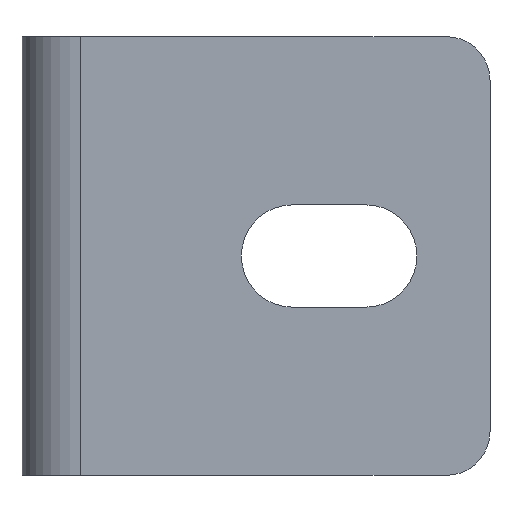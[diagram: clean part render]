
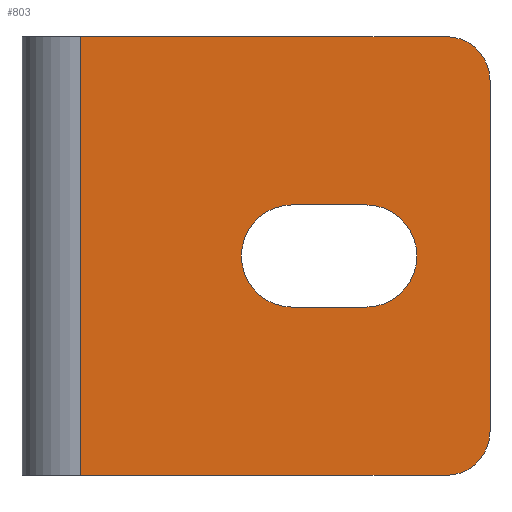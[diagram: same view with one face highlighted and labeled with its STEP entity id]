
A CAD part, front view. The second image highlights one B-rep face of the part: STEP entity #803.
In plain terms, the highlighted planar face has unit normal (0, -1, 0).
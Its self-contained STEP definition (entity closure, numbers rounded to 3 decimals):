
#30=DIRECTION('',(1.,0.,0.));
#31=VECTOR('',#30,25.);
#32=CARTESIAN_POINT('',(4.,0.,-15.));
#33=LINE('',#32,#31);
#257=DIRECTION('',(1.,0.,0.));
#258=VECTOR('',#257,25.);
#259=CARTESIAN_POINT('',(4.,0.,15.));
#260=LINE('',#259,#258);
#346=CARTESIAN_POINT('',(23.5,0.,0.));
#347=DIRECTION('',(0.,-1.,0.));
#348=DIRECTION('',(0.,0.,-1.));
#349=AXIS2_PLACEMENT_3D('',#346,#347,#348);
#354=DIRECTION('',(-1.,0.,0.));
#355=VECTOR('',#354,5.);
#356=CARTESIAN_POINT('',(23.5,0.,3.5));
#357=LINE('',#356,#355);
#361=CARTESIAN_POINT('',(18.5,0.,0.));
#362=DIRECTION('',(0.,-1.,0.));
#363=DIRECTION('',(0.,0.,1.));
#364=AXIS2_PLACEMENT_3D('',#361,#362,#363);
#369=DIRECTION('',(1.,0.,0.));
#370=VECTOR('',#369,5.);
#371=CARTESIAN_POINT('',(18.5,0.,-3.5));
#372=LINE('',#371,#370);
#376=CARTESIAN_POINT('',(29.,0.,-12.));
#377=DIRECTION('',(0.,-1.,0.));
#378=DIRECTION('',(0.,0.,-1.));
#379=AXIS2_PLACEMENT_3D('',#376,#377,#378);
#384=DIRECTION('',(0.,0.,1.));
#385=VECTOR('',#384,30.);
#386=CARTESIAN_POINT('',(4.,0.,-15.));
#387=LINE('',#386,#385);
#391=CARTESIAN_POINT('',(29.,0.,12.));
#392=DIRECTION('',(0.,-1.,0.));
#393=DIRECTION('',(1.,0.,0.));
#394=AXIS2_PLACEMENT_3D('',#391,#392,#393);
#427=DIRECTION('',(0.,0.,1.));
#428=VECTOR('',#427,24.);
#429=CARTESIAN_POINT('',(32.,0.,-12.));
#430=LINE('',#429,#428);
#449=CARTESIAN_POINT('',(4.,0.,-15.));
#451=VERTEX_POINT('',#449);
#457=CARTESIAN_POINT('',(4.,0.,15.));
#459=VERTEX_POINT('',#457);
#465=CARTESIAN_POINT('',(29.,0.,-15.));
#467=VERTEX_POINT('',#465);
#469=CARTESIAN_POINT('',(29.,0.,15.));
#471=VERTEX_POINT('',#469);
#472=CARTESIAN_POINT('',(23.5,0.,-3.5));
#473=CARTESIAN_POINT('',(23.5,0.,3.5));
#474=VERTEX_POINT('',#472);
#475=VERTEX_POINT('',#473);
#476=CARTESIAN_POINT('',(18.5,0.,3.5));
#477=VERTEX_POINT('',#476);
#478=CARTESIAN_POINT('',(18.5,0.,-3.5));
#479=VERTEX_POINT('',#478);
#480=CARTESIAN_POINT('',(32.,0.,-12.));
#481=VERTEX_POINT('',#480);
#482=CARTESIAN_POINT('',(32.,0.,12.));
#483=VERTEX_POINT('',#482);
#777=CARTESIAN_POINT('',(4.,0.,-15.));
#778=DIRECTION('',(0.,-1.,0.));
#779=DIRECTION('',(1.,0.,0.));
#780=AXIS2_PLACEMENT_3D('',#777,#778,#779);
#781=PLANE('',#780);
#783=ORIENTED_EDGE('',*,*,#782,.F.);
#784=ORIENTED_EDGE('',*,*,#539,.F.);
#786=ORIENTED_EDGE('',*,*,#785,.T.);
#787=ORIENTED_EDGE('',*,*,#714,.T.);
#789=ORIENTED_EDGE('',*,*,#788,.F.);
#791=ORIENTED_EDGE('',*,*,#790,.F.);
#792=EDGE_LOOP('',(#783,#784,#786,#787,#789,#791));
#793=FACE_OUTER_BOUND('',#792,.F.);
#794=ORIENTED_EDGE('',*,*,#767,.T.);
#796=ORIENTED_EDGE('',*,*,#795,.T.);
#798=ORIENTED_EDGE('',*,*,#797,.T.);
#800=ORIENTED_EDGE('',*,*,#799,.T.);
#801=EDGE_LOOP('',(#794,#796,#798,#800));
#802=FACE_BOUND('',#801,.F.);
#350=CIRCLE('',#349,3.5);
#365=CIRCLE('',#364,3.5);
#380=CIRCLE('',#379,3.);
#395=CIRCLE('',#394,3.);
#539=EDGE_CURVE('',#451,#467,#33,.T.);
#714=EDGE_CURVE('',#459,#471,#260,.T.);
#767=EDGE_CURVE('',#474,#475,#350,.T.);
#782=EDGE_CURVE('',#467,#481,#380,.T.);
#785=EDGE_CURVE('',#451,#459,#387,.T.);
#788=EDGE_CURVE('',#483,#471,#395,.T.);
#790=EDGE_CURVE('',#481,#483,#430,.T.);
#795=EDGE_CURVE('',#475,#477,#357,.T.);
#797=EDGE_CURVE('',#477,#479,#365,.T.);
#799=EDGE_CURVE('',#479,#474,#372,.T.);
#803=ADVANCED_FACE('',(#793,#802),#781,.T.);
